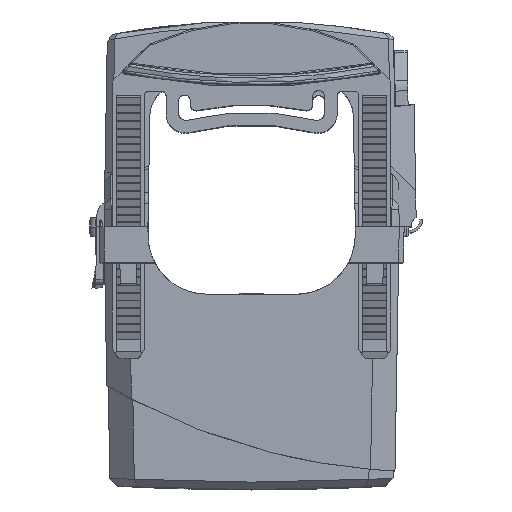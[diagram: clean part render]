
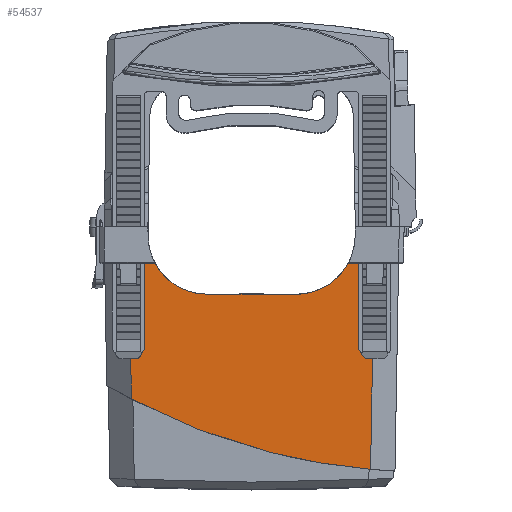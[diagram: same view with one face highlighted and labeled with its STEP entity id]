
A CAD part, top view. The second image highlights one B-rep face of the part: STEP entity #54537.
In plain terms, the highlighted planar face has unit normal (0, -0.018, 1) as drawn and (0, 0.017, 1) by its records, which use the part's own axes.
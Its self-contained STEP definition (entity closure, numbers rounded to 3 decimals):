
#2058 = CARTESIAN_POINT ( 'NONE',  ( -30.25, 7.5, 27.169 ) ) ;
#2564 = CARTESIAN_POINT ( 'NONE',  ( 25.117, 7.5, 27.169 ) ) ;
#2911 = CARTESIAN_POINT ( 'NONE',  ( -26.675, 7.5, 27.169 ) ) ;
#3043 = VERTEX_POINT ( 'NONE', #2564 ) ;
#3406 = ORIENTED_EDGE ( 'NONE', *, *, #49643, .T. ) ;
#3947 = CARTESIAN_POINT ( 'NONE',  ( -9.217, 13.8, 27.059 ) ) ;
#4136 = CARTESIAN_POINT ( 'NONE',  ( -13.742, 13.8, 27.059 ) ) ;
#4962 = ORIENTED_EDGE ( 'NONE', *, *, #25894, .T. ) ;
#5420 = CARTESIAN_POINT ( 'NONE',  ( -17.627, 11.482, 27.1 ) ) ;
#5587 = VERTEX_POINT ( 'NONE', #56308 ) ;
#5727 = VECTOR ( 'NONE', #24193, 1000. ) ;
#6017 = LINE ( 'NONE', #2058, #5727 ) ;
#6117 = VERTEX_POINT ( 'NONE', #34255 ) ;
#6817 = LINE ( 'NONE', #49717, #8574 ) ;
#7433 = VECTOR ( 'NONE', #34719, 1000. ) ;
#7451 = VERTEX_POINT ( 'NONE', #24766 ) ;
#7984 = LINE ( 'NONE', #34957, #7433 ) ;
#8393 = EDGE_CURVE ( 'NONE', #5587, #6117, #24148, .T. ) ;
#8574 = VECTOR ( 'NONE', #50384, 1000. ) ;
#9262 = EDGE_CURVE ( 'NONE', #69104, #66140, #15690, .T. ) ;
#9773 = CARTESIAN_POINT ( 'NONE',  ( -19.777, 7.5, 27.169 ) ) ;
#10265 = ORIENTED_EDGE ( 'NONE', *, *, #65464, .T. ) ;
#10853 =( BOUNDED_CURVE ( )  B_SPLINE_CURVE ( 3, ( #54524, #54901, #54110, #54050 ),
 .UNSPECIFIED., .F., .F. ) 
 B_SPLINE_CURVE_WITH_KNOTS ( ( 4, 4 ),
 ( 0., 1.076 ),
 .UNSPECIFIED. ) 
 CURVE ( )  GEOMETRIC_REPRESENTATION_ITEM ( )  RATIONAL_B_SPLINE_CURVE ( ( 1., 0.906, 0.906, 1. ) ) 
 REPRESENTATION_ITEM ( '' )  );
#11345 = VERTEX_POINT ( 'NONE', #23117 ) ;
#11966 = CARTESIAN_POINT ( 'NONE',  ( 23.825, 7.5, 27.169 ) ) ;
#12552 = DIRECTION ( 'NONE',  ( 0.017, 1., -0.017 ) ) ;
#12870 = CARTESIAN_POINT ( 'NONE',  ( -30.25, 0., 27.3 ) ) ;
#15690 = LINE ( 'NONE', #63018, #15963 ) ;
#15952 = DIRECTION ( 'NONE',  ( 1., 0., 0. ) ) ;
#15963 = VECTOR ( 'NONE', #52694, 1000. ) ;
#17898 = DIRECTION ( 'NONE',  ( -0.017, 1., -0.017 ) ) ;
#18140 = CARTESIAN_POINT ( 'NONE',  ( 23.826, 7.45, 27.17 ) ) ;
#18962 = VERTEX_POINT ( 'NONE', #11966 ) ;
#20189 = LINE ( 'NONE', #49316, #20329 ) ;
#20329 = VECTOR ( 'NONE', #15952, 1000. ) ;
#20675 = CARTESIAN_POINT ( 'NONE',  ( 26.544, 0., 27.3 ) ) ;
#20790 = DIRECTION ( 'NONE',  ( 1., 0., 0. ) ) ;
#21644 = LINE ( 'NONE', #51499, #22485 ) ;
#22059 = DIRECTION ( 'NONE',  ( 1., 0., 0. ) ) ;
#22485 = VECTOR ( 'NONE', #12552, 1000. ) ;
#22903 = VERTEX_POINT ( 'NONE', #27632 ) ;
#23117 = CARTESIAN_POINT ( 'NONE',  ( 26.675, 7.5, 27.169 ) ) ;
#23225 = VECTOR ( 'NONE', #20790, 1000. ) ;
#23364 = DIRECTION ( 'NONE',  ( -0.017, 1., -0.017 ) ) ;
#23491 = EDGE_CURVE ( 'NONE', #68639, #57886, #59603, .T. ) ;
#24148 = LINE ( 'NONE', #2911, #23225 ) ;
#24193 = DIRECTION ( 'NONE',  ( 1., 0., 0. ) ) ;
#24247 = PLANE ( 'NONE',  #59895 ) ;
#24766 = CARTESIAN_POINT ( 'NONE',  ( 19.777, 7.5, 27.169 ) ) ;
#25267 = DIRECTION ( 'NONE',  ( -0.017, -1., 0.017 ) ) ;
#25346 = ORIENTED_EDGE ( 'NONE', *, *, #26349, .T. ) ;
#25503 = CARTESIAN_POINT ( 'NONE',  ( -26.675, 7.5, 27.169 ) ) ;
#25894 = EDGE_CURVE ( 'NONE', #68308, #22903, #67870, .T. ) ;
#25972 = CARTESIAN_POINT ( 'NONE',  ( -25.249, -0.087, 27.302 ) ) ;
#26195 = VERTEX_POINT ( 'NONE', #51102 ) ;
#26277 = LINE ( 'NONE', #25972, #71691 ) ;
#26349 = EDGE_CURVE ( 'NONE', #26195, #7451, #10853, .T. ) ;
#26967 = DIRECTION ( 'NONE',  ( -0.017, 1., -0.017 ) ) ;
#27093 = EDGE_CURVE ( 'NONE', #69104, #18962, #64438, .T. ) ;
#27534 = CARTESIAN_POINT ( 'NONE',  ( -26.544, 0., 27.3 ) ) ;
#27548 = EDGE_CURVE ( 'NONE', #66140, #11345, #6817, .T. ) ;
#27632 = CARTESIAN_POINT ( 'NONE',  ( -9.217, 13.8, 27.059 ) ) ;
#27936 = CARTESIAN_POINT ( 'NONE',  ( -23.825, 7.5, 27.169 ) ) ;
#27947 = EDGE_CURVE ( 'NONE', #3043, #68639, #54675, .T. ) ;
#27952 = EDGE_CURVE ( 'NONE', #57886, #6117, #26277, .T. ) ;
#27959 = EDGE_CURVE ( 'NONE', #50264, #5587, #38889, .T. ) ;
#27981 = CARTESIAN_POINT ( 'NONE',  ( 25.231, 0.968, 27.283 ) ) ;
#29818 = DIRECTION ( 'NONE',  ( 0., -1., 0.017 ) ) ;
#30039 = LINE ( 'NONE', #55380, #38050 ) ;
#30042 = ORIENTED_EDGE ( 'NONE', *, *, #57428, .T. ) ;
#31536 = CARTESIAN_POINT ( 'NONE',  ( -23.956, 0., 27.3 ) ) ;
#34255 = CARTESIAN_POINT ( 'NONE',  ( -25.117, 7.5, 27.169 ) ) ;
#34719 = DIRECTION ( 'NONE',  ( 1., 0., 0. ) ) ;
#34957 = CARTESIAN_POINT ( 'NONE',  ( -30.25, 0., 27.3 ) ) ;
#35933 = ORIENTED_EDGE ( 'NONE', *, *, #27093, .F. ) ;
#36884 = EDGE_CURVE ( 'NONE', #50264, #49484, #7984, .T. ) ;
#37416 = CARTESIAN_POINT ( 'NONE',  ( 24.632, 35.297, 26.684 ) ) ;
#38050 = VECTOR ( 'NONE', #22059, 1000. ) ;
#38889 = LINE ( 'NONE', #25503, #71385 ) ;
#39549 = DIRECTION ( 'NONE',  ( 1., 0., 0. ) ) ;
#40222 = EDGE_LOOP ( 'NONE', ( #25346, #30042, #35933, #41211, #45591, #49869, #52170, #56171, #57598, #65090, #66635, #70674, #71830, #3406, #4962, #10265 ) ) ;
#41211 = ORIENTED_EDGE ( 'NONE', *, *, #9262, .T. ) ;
#42340 = VECTOR ( 'NONE', #39549, 1000. ) ;
#42545 = LINE ( 'NONE', #50390, #42340 ) ;
#45591 = ORIENTED_EDGE ( 'NONE', *, *, #27548, .T. ) ;
#48212 = CARTESIAN_POINT ( 'NONE',  ( 23.956, 0., 27.3 ) ) ;
#48733 = VECTOR ( 'NONE', #17898, 1000. ) ;
#49316 = CARTESIAN_POINT ( 'NONE',  ( 26.675, 7.5, 27.169 ) ) ;
#49484 = VERTEX_POINT ( 'NONE', #31536 ) ;
#49643 = EDGE_CURVE ( 'NONE', #54342, #68308, #30039, .T. ) ;
#49717 = CARTESIAN_POINT ( 'NONE',  ( 26.675, 7.5, 27.169 ) ) ;
#49869 = ORIENTED_EDGE ( 'NONE', *, *, #62254, .F. ) ;
#50264 = VERTEX_POINT ( 'NONE', #27534 ) ;
#50384 = DIRECTION ( 'NONE',  ( 0.017, 1., -0.017 ) ) ;
#50390 = CARTESIAN_POINT ( 'NONE',  ( -30.25, 13.8, 27.059 ) ) ;
#51102 = CARTESIAN_POINT ( 'NONE',  ( 9.217, 13.8, 27.059 ) ) ;
#51499 = CARTESIAN_POINT ( 'NONE',  ( -23.825, 7.5, 27.169 ) ) ;
#52170 = ORIENTED_EDGE ( 'NONE', *, *, #27947, .T. ) ;
#52694 = DIRECTION ( 'NONE',  ( 1., 0., 0. ) ) ;
#54050 = CARTESIAN_POINT ( 'NONE',  ( 19.777, 7.5, 27.169 ) ) ;
#54110 = CARTESIAN_POINT ( 'NONE',  ( 17.627, 11.482, 27.1 ) ) ;
#54342 = VERTEX_POINT ( 'NONE', #27936 ) ;
#54524 = CARTESIAN_POINT ( 'NONE',  ( 9.217, 13.8, 27.059 ) ) ;
#54537 = ADVANCED_FACE ( 'NONE', ( #56547 ), #24247, .T. ) ;
#54675 = LINE ( 'NONE', #27981, #72110 ) ;
#54901 = CARTESIAN_POINT ( 'NONE',  ( 13.742, 13.8, 27.059 ) ) ;
#55380 = CARTESIAN_POINT ( 'NONE',  ( -30.25, 7.5, 27.169 ) ) ;
#56171 = ORIENTED_EDGE ( 'NONE', *, *, #23491, .T. ) ;
#56308 = CARTESIAN_POINT ( 'NONE',  ( -26.675, 7.5, 27.169 ) ) ;
#56546 = EDGE_CURVE ( 'NONE', #49484, #54342, #21644, .T. ) ;
#56547 = FACE_OUTER_BOUND ( 'NONE', #40222, .T. ) ;
#57428 = EDGE_CURVE ( 'NONE', #7451, #18962, #6017, .T. ) ;
#57598 = ORIENTED_EDGE ( 'NONE', *, *, #27952, .T. ) ;
#57886 = VERTEX_POINT ( 'NONE', #67443 ) ;
#59603 =( BOUNDED_CURVE ( )  B_SPLINE_CURVE ( 3, ( #70595, #70134, #69967, #69410 ),
 .UNSPECIFIED., .F., .F. ) 
 B_SPLINE_CURVE_WITH_KNOTS ( ( 4, 4 ),
 ( 5.8, 6.195 ),
 .UNSPECIFIED. ) 
 CURVE ( )  GEOMETRIC_REPRESENTATION_ITEM ( )  RATIONAL_B_SPLINE_CURVE ( ( 1., 0.987, 0.987, 1. ) ) 
 REPRESENTATION_ITEM ( '' )  );
#59895 = AXIS2_PLACEMENT_3D ( 'NONE', #12870, #63321, #29818 ) ;
#62254 = EDGE_CURVE ( 'NONE', #3043, #11345, #20189, .T. ) ;
#63018 = CARTESIAN_POINT ( 'NONE',  ( 30.25, 0., 27.3 ) ) ;
#63321 = DIRECTION ( 'NONE',  ( 0., 0.017, 1. ) ) ;
#64438 = LINE ( 'NONE', #18140, #48733 ) ;
#65090 = ORIENTED_EDGE ( 'NONE', *, *, #8393, .F. ) ;
#65464 = EDGE_CURVE ( 'NONE', #22903, #26195, #42545, .T. ) ;
#66140 = VERTEX_POINT ( 'NONE', #20675 ) ;
#66635 = ORIENTED_EDGE ( 'NONE', *, *, #27959, .F. ) ;
#67443 = CARTESIAN_POINT ( 'NONE',  ( -24.38, 49.697, 26.433 ) ) ;
#67464 = CARTESIAN_POINT ( 'NONE',  ( -19.777, 7.5, 27.169 ) ) ;
#67870 =( BOUNDED_CURVE ( )  B_SPLINE_CURVE ( 3, ( #9773, #5420, #4136, #3947 ),
 .UNSPECIFIED., .F., .F. ) 
 B_SPLINE_CURVE_WITH_KNOTS ( ( 4, 4 ),
 ( 5.207, 6.283 ),
 .UNSPECIFIED. ) 
 CURVE ( )  GEOMETRIC_REPRESENTATION_ITEM ( )  RATIONAL_B_SPLINE_CURVE ( ( 1., 0.906, 0.906, 1. ) ) 
 REPRESENTATION_ITEM ( '' )  );
#68308 = VERTEX_POINT ( 'NONE', #67464 ) ;
#68639 = VERTEX_POINT ( 'NONE', #37416 ) ;
#69104 = VERTEX_POINT ( 'NONE', #48212 ) ;
#69410 = CARTESIAN_POINT ( 'NONE',  ( -24.38, 49.697, 26.433 ) ) ;
#69967 = CARTESIAN_POINT ( 'NONE',  ( -7.195, 48.181, 26.459 ) ) ;
#70134 = CARTESIAN_POINT ( 'NONE',  ( 9.357, 43.318, 26.544 ) ) ;
#70595 = CARTESIAN_POINT ( 'NONE',  ( 24.632, 35.297, 26.684 ) ) ;
#70674 = ORIENTED_EDGE ( 'NONE', *, *, #36884, .T. ) ;
#71385 = VECTOR ( 'NONE', #23364, 1000. ) ;
#71691 = VECTOR ( 'NONE', #25267, 1000. ) ;
#71830 = ORIENTED_EDGE ( 'NONE', *, *, #56546, .T. ) ;
#72110 = VECTOR ( 'NONE', #26967, 1000. ) ;
